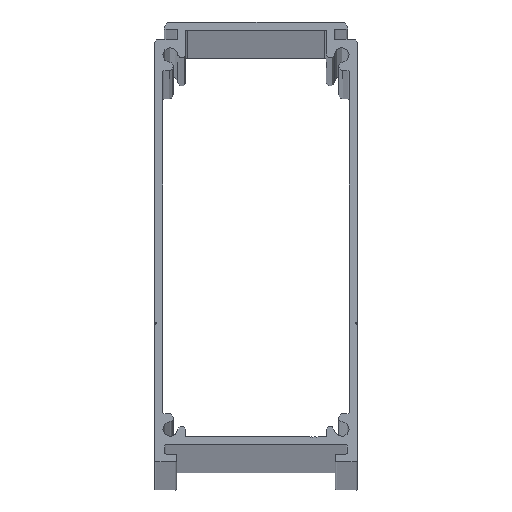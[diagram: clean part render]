
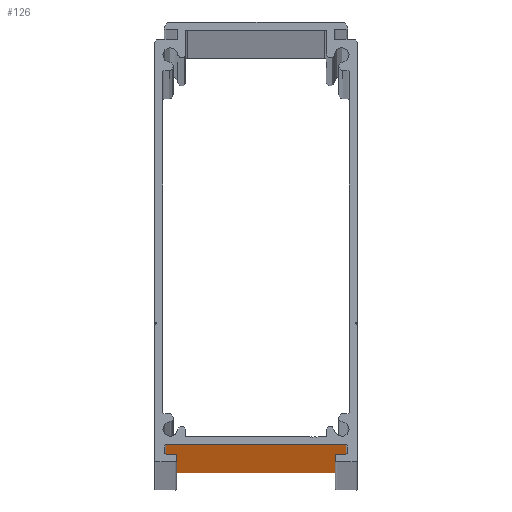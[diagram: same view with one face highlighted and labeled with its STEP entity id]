
A CAD part, top view. The second image highlights one B-rep face of the part: STEP entity #126.
In plain terms, the highlighted planar face has unit normal (0, -1, 0).
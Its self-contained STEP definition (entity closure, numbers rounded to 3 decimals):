
#126 = ADVANCED_FACE( '', ( #274 ), #275, .T. );
#274 = FACE_OUTER_BOUND( '', #464, .T. );
#275 = PLANE( '', #465 );
#464 = EDGE_LOOP( '', ( #1083, #1084, #1085, #1086 ) );
#465 = AXIS2_PLACEMENT_3D( '', #1087, #1088, #1089 );
#1083 = ORIENTED_EDGE( '', *, *, #1531, .F. );
#1084 = ORIENTED_EDGE( '', *, *, #1387, .F. );
#1085 = ORIENTED_EDGE( '', *, *, #1486, .T. );
#1086 = ORIENTED_EDGE( '', *, *, #1619, .T. );
#1087 = CARTESIAN_POINT( '', ( 1834.373, 469.312, -3994. ) );
#1088 = DIRECTION( '', ( 0., -1., 0. ) );
#1089 = DIRECTION( '', ( -1., 0., 0. ) );
#1387 = EDGE_CURVE( '', #1665, #1661, #1667, .T. );
#1486 = EDGE_CURVE( '', #1665, #1859, #1861, .T. );
#1531 = EDGE_CURVE( '', #1661, #1948, #1949, .T. );
#1619 = EDGE_CURVE( '', #1859, #1948, #2079, .T. );
#1661 = VERTEX_POINT( '', #2121 );
#1665 = VERTEX_POINT( '', #2126 );
#1667 = LINE( '', #2128, #2129 );
#1859 = VERTEX_POINT( '', #2372 );
#1861 = LINE( '', #2374, #2375 );
#1948 = VERTEX_POINT( '', #2483 );
#1949 = LINE( '', #2484, #2485 );
#2079 = LINE( '', #2682, #2683 );
#2121 = CARTESIAN_POINT( '', ( 1834.373, 469.312, 0. ) );
#2126 = CARTESIAN_POINT( '', ( 1834.373, 469.312, -3994. ) );
#2128 = CARTESIAN_POINT( '', ( 1834.373, 469.312, -3994. ) );
#2129 = VECTOR( '', #2771, 1000. );
#2372 = CARTESIAN_POINT( '', ( 1878.773, 469.312, -3994. ) );
#2374 = CARTESIAN_POINT( '', ( 1834.373, 469.312, -3994. ) );
#2375 = VECTOR( '', #2964, 1000. );
#2483 = CARTESIAN_POINT( '', ( 1878.773, 469.312, 0. ) );
#2484 = CARTESIAN_POINT( '', ( 1834.373, 469.312, 0. ) );
#2485 = VECTOR( '', #3055, 1000. );
#2682 = CARTESIAN_POINT( '', ( 1878.773, 469.312, -3994. ) );
#2683 = VECTOR( '', #3183, 1000. );
#2771 = DIRECTION( '', ( 0., 0., 1. ) );
#2964 = DIRECTION( '', ( 1., 0., 0. ) );
#3055 = DIRECTION( '', ( 1., 0., 0. ) );
#3183 = DIRECTION( '', ( 0., 0., 1. ) );
